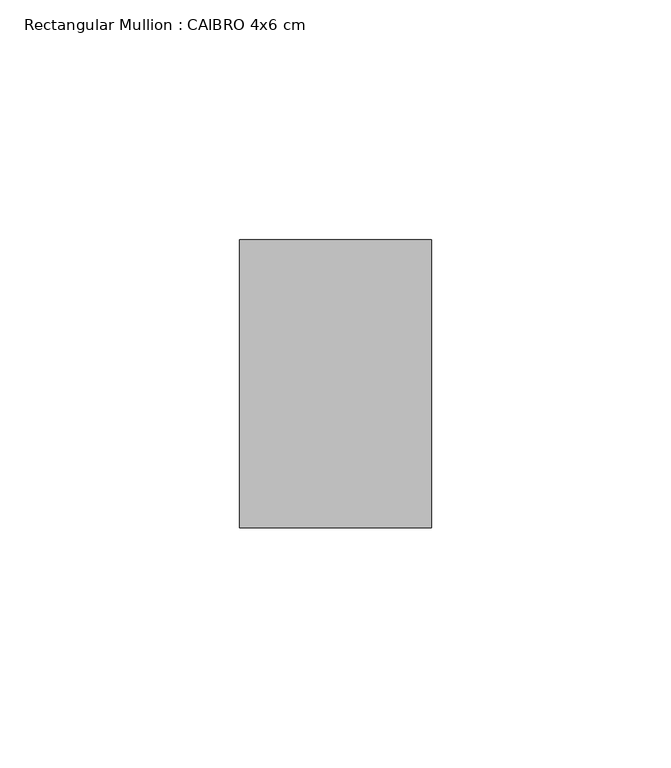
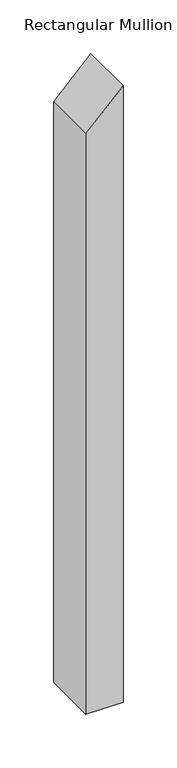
"""IFC4 building model written with IfcOpenShell, lengths in millimetres: member geometry, Rectangular Mullion : CAIBRO 4x6 cm."""

from ifc_helpers import new_model, si_unit, frame, origin, place, context, project, spatial, polyline, outline, extrude, source, transform, mapped, element, save


def rectangular_mullion_caibro_4x6_cm_f730ecbf(model_context):
    return source(origin(), model_context, "Body", "SweptSolid", [
        extrude(outline(polyline([(0.0, 0.0), (-40.4474968, -40.0), (-700.948661, -40.0), (-700.948661, 0.0), (0.0, 0.0)])), frame((0.0, 0.0, 0.0), z_axis=(0.0, 1.0, 0.0), x_axis=(0.0, 0.0, 1.0)), (0.0, 0.0, 1.0), 60.0),
    ])


if __name__ == "__main__":
    model = new_model("IFC4")
    model_context = context("Model", 3, world=origin())
    ifc_project = project(units=[si_unit("LENGTHUNIT", "METRE", prefix="MILLI")], contexts=[model_context])
    site = spatial("IfcSite", under=ifc_project)
    building = spatial("IfcBuilding", under=site)
    placement = place(None, origin())
    rectangular_mullion_caibro_4x6_cm_shape = rectangular_mullion_caibro_4x6_cm_f730ecbf(model_context)
    element("IfcMember", 1, ObjectType="Rectangular Mullion : CAIBRO 4x6 cm", at=placement, inside=building, context=model_context, shape_type="MappedRepresentation", body=[
        mapped(rectangular_mullion_caibro_4x6_cm_shape, transform((0.0, 0.0, 0.0), x_axis=(1.0, 0.0, 0.0), y_axis=(0.0, 1.0, 0.0), z_axis=(0.0, 0.0, 1.0))),
    ])
    save(model, "model.ifc")
